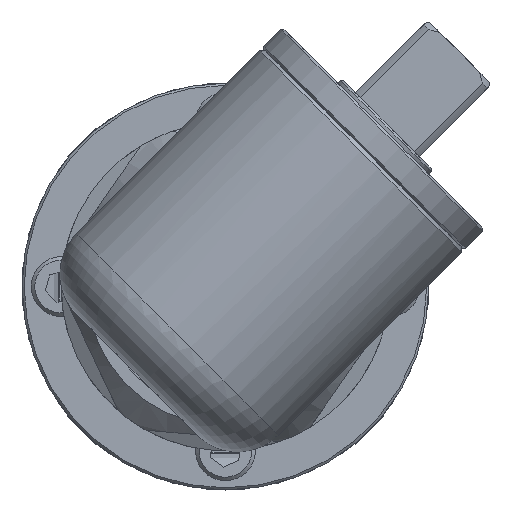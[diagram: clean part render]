
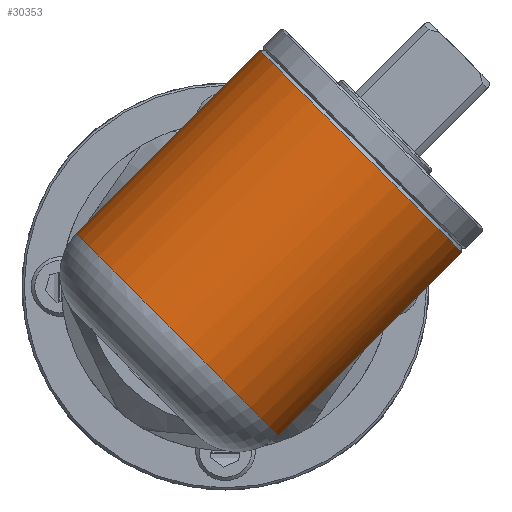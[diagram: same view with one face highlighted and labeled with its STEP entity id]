
A CAD part, left-side view. The second image highlights one B-rep face of the part: STEP entity #30353.
In plain terms, the highlighted cylindrical face has radius 20 mm (diameter 40 mm), a full revolution.
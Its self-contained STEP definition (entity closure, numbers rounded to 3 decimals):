
#1522 = LINE ( 'NONE', #32685, #10626 ) ;
#3950 = VECTOR ( 'NONE', #75958, 1000. ) ;
#4905 = EDGE_CURVE ( 'NONE', #15056, #86722, #1522, .T. ) ;
#5337 = DIRECTION ( 'NONE',  ( 0., 0.707, -0.707 ) ) ;
#5388 = ORIENTED_EDGE ( 'NONE', *, *, #58695, .F. ) ;
#9252 = DIRECTION ( 'NONE',  ( 0., 0.707, 0.707 ) ) ;
#9498 = CYLINDRICAL_SURFACE ( 'NONE', #14643, 20. ) ;
#10626 = VECTOR ( 'NONE', #11562, 1000. ) ;
#11562 = DIRECTION ( 'NONE',  ( 0., 0.707, -0.707 ) ) ;
#11824 = AXIS2_PLACEMENT_3D ( 'NONE', #66659, #65752, #30988 ) ;
#14643 = AXIS2_PLACEMENT_3D ( 'NONE', #53875, #5337, #32431 ) ;
#14780 = CIRCLE ( 'NONE', #11824, 20. ) ;
#15056 = VERTEX_POINT ( 'NONE', #60272 ) ;
#16130 = EDGE_LOOP ( 'NONE', ( #73762 ) ) ;
#16383 = FACE_OUTER_BOUND ( 'NONE', #17035, .T. ) ;
#17035 = EDGE_LOOP ( 'NONE', ( #89594, #83233, #44257, #5388 ) ) ;
#20016 = DIRECTION ( 'NONE',  ( 0., -0.707, 0.707 ) ) ;
#21553 = CIRCLE ( 'NONE', #55240, 20. ) ;
#23010 = DIRECTION ( 'NONE',  ( 0., 0.707, -0.707 ) ) ;
#27427 = LINE ( 'NONE', #48049, #3950 ) ;
#30353 = ADVANCED_FACE ( 'NONE', ( #79129, #16383 ), #9498, .T. ) ;
#30988 = DIRECTION ( 'NONE',  ( 0., -0.707, -0.707 ) ) ;
#32431 = DIRECTION ( 'NONE',  ( 0., 0.707, 0.707 ) ) ;
#32685 = CARTESIAN_POINT ( 'NONE',  ( -247.539, 25.254, 0.505 ) ) ;
#33206 = CARTESIAN_POINT ( 'NONE',  ( -247.539, -25.254, -0.505 ) ) ;
#34780 = CARTESIAN_POINT ( 'NONE',  ( -255.8, -4.808, 33.093 ) ) ;
#36428 = VERTEX_POINT ( 'NONE', #33206 ) ;
#40230 = DIRECTION ( 'NONE',  ( 0., -0.707, -0.707 ) ) ;
#40315 = VERTEX_POINT ( 'NONE', #34780 ) ;
#44257 = ORIENTED_EDGE ( 'NONE', *, *, #50861, .T. ) ;
#47337 = CIRCLE ( 'NONE', #61943, 20. ) ;
#47975 = CARTESIAN_POINT ( 'NONE',  ( -255.8, 6.718, -6.718 ) ) ;
#48049 = CARTESIAN_POINT ( 'NONE',  ( -247.539, -0.505, -25.254 ) ) ;
#50034 = CARTESIAN_POINT ( 'NONE',  ( -255.8, -18.95, 18.95 ) ) ;
#50861 = EDGE_CURVE ( 'NONE', #79373, #36428, #27427, .T. ) ;
#53875 = CARTESIAN_POINT ( 'NONE',  ( -255.8, 12.374, -12.374 ) ) ;
#55240 = AXIS2_PLACEMENT_3D ( 'NONE', #47975, #20016, #40230 ) ;
#58695 = EDGE_CURVE ( 'NONE', #15056, #36428, #14780, .T. ) ;
#60272 = CARTESIAN_POINT ( 'NONE',  ( -247.539, 0.505, 25.254 ) ) ;
#61943 = AXIS2_PLACEMENT_3D ( 'NONE', #50034, #23010, #9252 ) ;
#65752 = DIRECTION ( 'NONE',  ( 0., 0.707, -0.707 ) ) ;
#66659 = CARTESIAN_POINT ( 'NONE',  ( -255.8, -12.374, 12.374 ) ) ;
#67637 = CARTESIAN_POINT ( 'NONE',  ( -247.539, -6.162, -19.597 ) ) ;
#73762 = ORIENTED_EDGE ( 'NONE', *, *, #77903, .T. ) ;
#74908 = EDGE_CURVE ( 'NONE', #86722, #79373, #21553, .T. ) ;
#75958 = DIRECTION ( 'NONE',  ( 0., -0.707, 0.707 ) ) ;
#77903 = EDGE_CURVE ( 'NONE', #40315, #40315, #47337, .T. ) ;
#79129 = FACE_OUTER_BOUND ( 'NONE', #16130, .T. ) ;
#79373 = VERTEX_POINT ( 'NONE', #67637 ) ;
#83233 = ORIENTED_EDGE ( 'NONE', *, *, #74908, .T. ) ;
#84444 = CARTESIAN_POINT ( 'NONE',  ( -247.539, 19.597, 6.162 ) ) ;
#86722 = VERTEX_POINT ( 'NONE', #84444 ) ;
#89594 = ORIENTED_EDGE ( 'NONE', *, *, #4905, .T. ) ;
